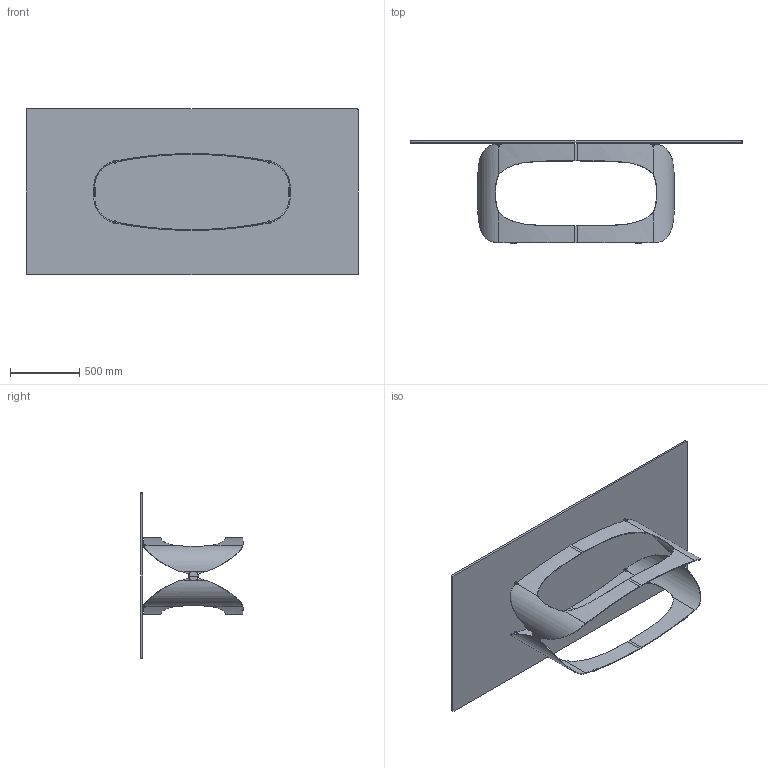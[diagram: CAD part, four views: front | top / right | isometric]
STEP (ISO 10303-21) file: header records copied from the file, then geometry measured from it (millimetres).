
FILE_DESCRIPTION (( 'STEP AP203' ), '1' );
FILE_NAME ('PO23G.STEP', '2024-08-06T14:06:49', ( '' ), ( '' ), 'SwSTEP 2.0', 'SolidWorks 2022', '' );
FILE_SCHEMA (( 'CONFIG_CONTROL_DESIGN' ));
Length unit declared in the file: millimetre
Products named in the file (11): PST0GR022-01-PIASTRA D22x22H mm+FILETTO M8 AVP-AVZ GREZZO; POL000000_03-01-POLIFEMO FREGIO COMPLETO; PVC Ø19x3; POL000000_01-01-MEZZA BASE POLIFEMO X PIANI 200-240_POL000000_03-00-MEZZA BASE PLIFEMO L160; POL000000_03B-00-POLIFEMO FREGIO; PVC profilo Polifemo 9x8; POL000000_02-02-CILINDRO DI FISSAGGIO Ø12X15 M8; POL000000_03A-01-POLIFEMO FREGIO; POL000000-00-POLIFEMO BASE X PIANI 200-240_POL000000-00-POLIFEMO BASE L160; C2XCRXX-00-Piani Rettangolari Cristallo_23 2400x1200; PO23G
Assembly tree (24 placements, depth 3):
  PO23G
    POL000000-00-POLIFEMO BASE X PIANI 200-240_POL000000-00-POLIFEMO BASE L160
      POL000000_01-01-MEZZA BASE POLIFEMO X PIANI 200-240_POL000000_03-00-MEZZA BASE PLIFEMO L160  x2
      POL000000_02-02-CILINDRO DI FISSAGGIO Ø12X15 M8  x4
    POL000000_03-01-POLIFEMO FREGIO COMPLETO  x2
      POL000000_03A-01-POLIFEMO FREGIO
      POL000000_03B-00-POLIFEMO FREGIO
    PST0GR022-01-PIASTRA D22x22H mm+FILETTO M8 AVP-AVZ GREZZO  x4
    PVC Ø19x3  x4
    PVC profilo Polifemo 9x8  x3
    C2XCRXX-00-Piani Rettangolari Cristallo_23 2400x1200
Bounding box: 2400 x 739.97 x 1200 mm (x, y, z)
Volume: 50416325.5 mm3; surface area: 8394590.9 mm2
Topology: 24 solids, 24 shells, 476 faces, 1180 edges, 758 vertices
Faces by surface type: cylinder 221, plane 155, bspline 80, cone 20
Entity records: 16748 total; most frequent: CARTESIAN_POINT 11196, ORIENTED_EDGE 904, DIRECTION 749, EDGE_CURVE 452, VERTEX_POINT 290, AXIS2_PLACEMENT_3D 280, VECTOR 189, LINE 189
